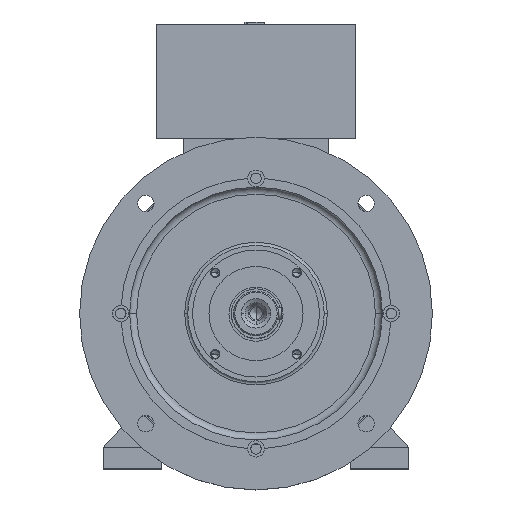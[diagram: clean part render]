
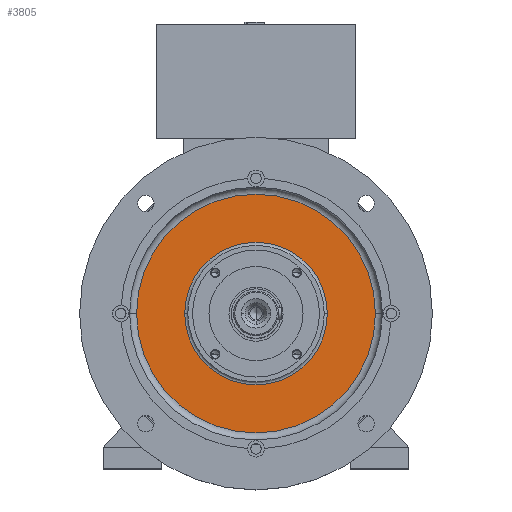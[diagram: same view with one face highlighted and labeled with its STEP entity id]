
A CAD part, top view. The second image highlights one B-rep face of the part: STEP entity #3805.
In plain terms, the highlighted planar face has unit normal (0, 0, 1).
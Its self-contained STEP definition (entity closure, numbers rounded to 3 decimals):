
#636 = DIRECTION ( 'NONE',  ( -1., 0., 0. ) ) ;
#880 = VERTEX_POINT ( 'NONE', #33278 ) ;
#3805 = ADVANCED_FACE ( 'NONE', ( #24022, #6608 ), #11535, .F. ) ;
#3992 = EDGE_CURVE ( 'NONE', #33243, #14650, #12397, .T. ) ;
#4280 = VERTEX_POINT ( 'NONE', #29494 ) ;
#5725 = CIRCLE ( 'NONE', #8870, 101.5 ) ;
#5975 = DIRECTION ( 'NONE',  ( -1., 0., 0. ) ) ;
#6236 = EDGE_CURVE ( 'NONE', #14650, #33243, #17129, .T. ) ;
#6608 = FACE_BOUND ( 'NONE', #10533, .T. ) ;
#8712 = CARTESIAN_POINT ( 'NONE',  ( 60.598, 0., 166. ) ) ;
#8870 = AXIS2_PLACEMENT_3D ( 'NONE', #26983, #21827, #28052 ) ;
#9969 = ORIENTED_EDGE ( 'NONE', *, *, #3992, .T. ) ;
#10533 = EDGE_LOOP ( 'NONE', ( #9969, #17034 ) ) ;
#11266 = DIRECTION ( 'NONE',  ( 0., 0., -1. ) ) ;
#11535 = PLANE ( 'NONE',  #13061 ) ;
#12397 = CIRCLE ( 'NONE', #22873, 60.598 ) ;
#12432 = CARTESIAN_POINT ( 'NONE',  ( 0., 0., 166. ) ) ;
#13061 = AXIS2_PLACEMENT_3D ( 'NONE', #39061, #11266, #23703 ) ;
#14100 = EDGE_CURVE ( 'NONE', #880, #4280, #23696, .T. ) ;
#14650 = VERTEX_POINT ( 'NONE', #8712 ) ;
#17034 = ORIENTED_EDGE ( 'NONE', *, *, #6236, .T. ) ;
#17129 = CIRCLE ( 'NONE', #31562, 60.598 ) ;
#21827 = DIRECTION ( 'NONE',  ( 0., 0., 1. ) ) ;
#22020 = DIRECTION ( 'NONE',  ( -1., 0., 0. ) ) ;
#22873 = AXIS2_PLACEMENT_3D ( 'NONE', #37294, #28423, #636 ) ;
#23696 = CIRCLE ( 'NONE', #25610, 101.5 ) ;
#23703 = DIRECTION ( 'NONE',  ( -1., 0., 0. ) ) ;
#24022 = FACE_OUTER_BOUND ( 'NONE', #39901, .T. ) ;
#24092 = ORIENTED_EDGE ( 'NONE', *, *, #35142, .T. ) ;
#24221 = DIRECTION ( 'NONE',  ( 0., 0., 1. ) ) ;
#24507 = CARTESIAN_POINT ( 'NONE',  ( -60.598, 0., 166. ) ) ;
#25610 = AXIS2_PLACEMENT_3D ( 'NONE', #30869, #24221, #5975 ) ;
#26983 = CARTESIAN_POINT ( 'NONE',  ( 0., 0., 166. ) ) ;
#28052 = DIRECTION ( 'NONE',  ( -1., 0., 0. ) ) ;
#28423 = DIRECTION ( 'NONE',  ( 0., 0., -1. ) ) ;
#29494 = CARTESIAN_POINT ( 'NONE',  ( -101.5, 0., 166. ) ) ;
#30869 = CARTESIAN_POINT ( 'NONE',  ( 0., 0., 166. ) ) ;
#31562 = AXIS2_PLACEMENT_3D ( 'NONE', #12432, #37527, #22020 ) ;
#33243 = VERTEX_POINT ( 'NONE', #24507 ) ;
#33278 = CARTESIAN_POINT ( 'NONE',  ( 101.5, 0., 166. ) ) ;
#35142 = EDGE_CURVE ( 'NONE', #4280, #880, #5725, .T. ) ;
#36749 = ORIENTED_EDGE ( 'NONE', *, *, #14100, .T. ) ;
#37294 = CARTESIAN_POINT ( 'NONE',  ( 0., 0., 166. ) ) ;
#37527 = DIRECTION ( 'NONE',  ( 0., 0., -1. ) ) ;
#39061 = CARTESIAN_POINT ( 'NONE',  ( 0., 58., 166. ) ) ;
#39901 = EDGE_LOOP ( 'NONE', ( #24092, #36749 ) ) ;
